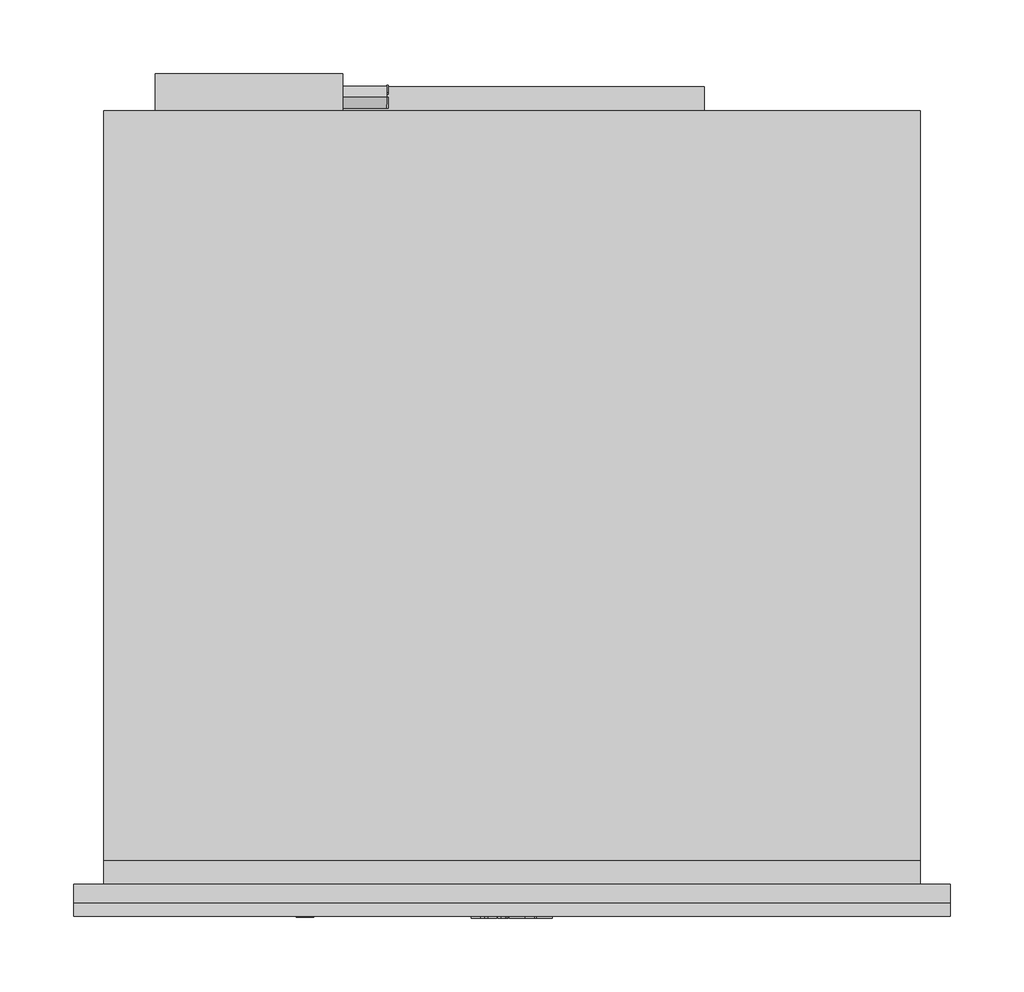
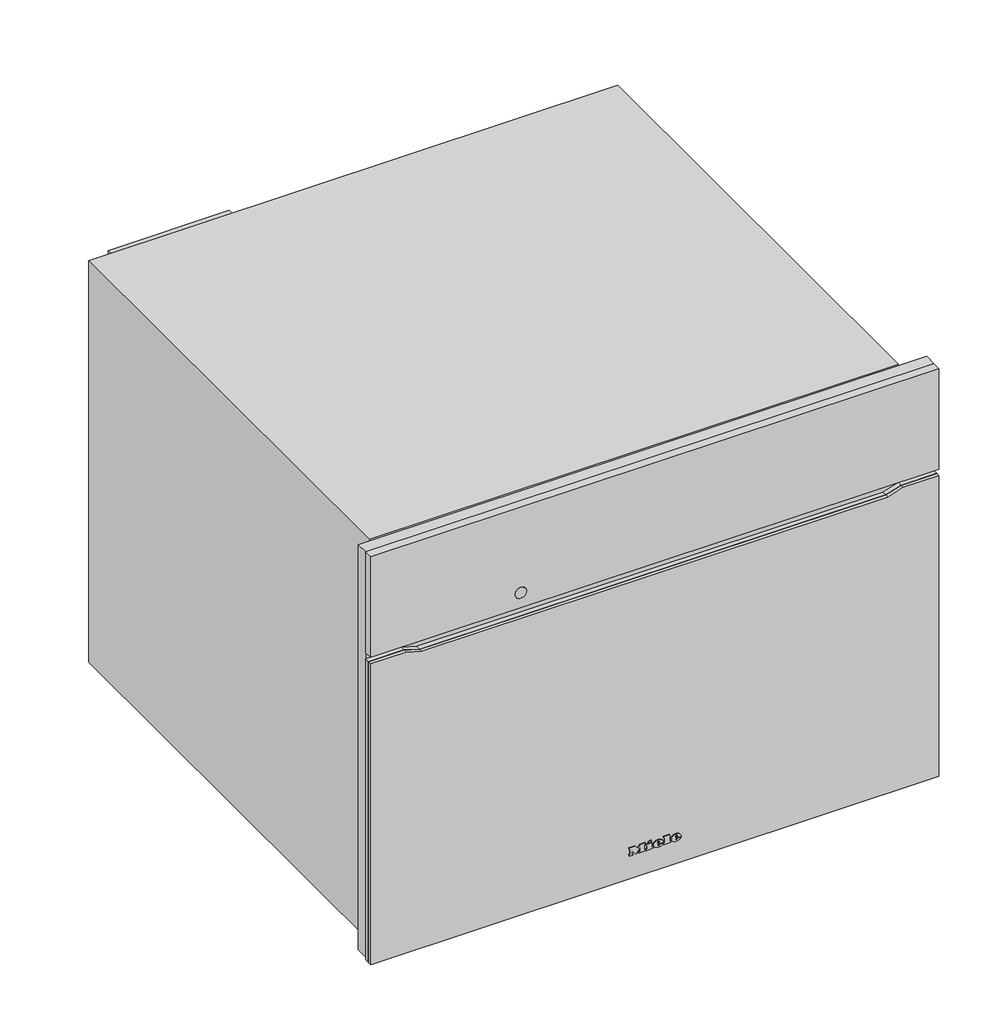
# Not in any storey: 1 proxy.
"""IFC4 building model written with IfcOpenShell, lengths in millimetres."""

from ifc_helpers import new_model, si_unit, origin, place, context, project, spatial, transform, mapped, element, save
from components import specialty_equipment_6da7d189

model = new_model("IFC4")

# Units and contexts
model_context = context("Model", 3, world=origin())
ifc_project = project(units=[si_unit("LENGTHUNIT", "METRE", prefix="MILLI")], contexts=[model_context])

# Site, building
site = spatial("IfcSite", under=ifc_project)
building = spatial("IfcBuilding", under=site)

# Proxy
placement = place(None, origin())
specialty_equipment_shape = specialty_equipment_6da7d189(model_context)
element("IfcBuildingElementProxy", 1, Name="11117450_CH_H7840BMX_GRGR : 22784076_CH_11117450_H7840BMX_GRGR", ObjectType="11117450_CH_H7840BMX_GRGR : 22784076_CH_11117450_H7840BMX_GRGR", at=placement, inside=building, context=model_context, shape_type="MappedRepresentation", body=[
    mapped(specialty_equipment_shape, transform((0.0, 0.0, 0.0), x_axis=(1.0, 0.0, 0.0), y_axis=(0.0, 1.0, 0.0), z_axis=(0.0, 0.0, 1.0))),
])

save(model, "model.ifc")
